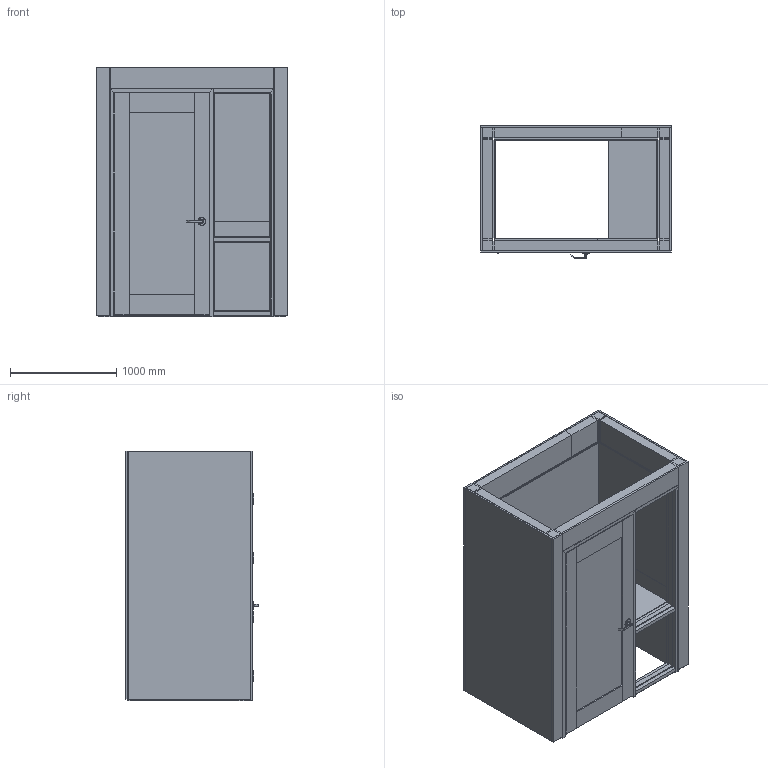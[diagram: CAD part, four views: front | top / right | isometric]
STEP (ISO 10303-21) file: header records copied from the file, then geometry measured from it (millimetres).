
FILE_DESCRIPTION(/* description */ (''),/* implementation_level */ '2;1');
FILE_NAME(/* name */ 'Quiet XL',/* time_stamp */ '2026-06-15T16:08:14+12:00',/* author */ (''),/* organization */ (''),/* preprocessor_version */ 'ST-DEVELOPER v19.2',/* originating_system */ 'Rhino 8.31',/* authorisation */ '');
FILE_SCHEMA (('CONFIG_CONTROL_DESIGN'));
Length unit declared in the file: millimetre
Products named in the file (4): Document; 600x2400mm Internal Linings - MDF; CornerPost_2600_92; 18mm Packer
Bounding box: 1796 x 1243.7 x 2354 mm (x, y, z)
Volume: 1329207757.3 mm3; surface area: 89861252.3 mm2
Topology: 72 solids, 76 shells, 511 faces, 1084 edges, 729 vertices
Faces by surface type: plane 487, cylinder 16, bspline 8
Entity records: 12015 total; most frequent: CARTESIAN_POINT 3434, ORIENTED_EDGE 2060, EDGE_CURVE 1040, B_SPLINE_CURVE_WITH_KNOTS 984, VERTEX_POINT 692, DIRECTION 629, AXIS2_PLACEMENT_3D 557, EDGE_LOOP 497
